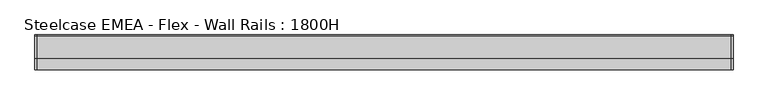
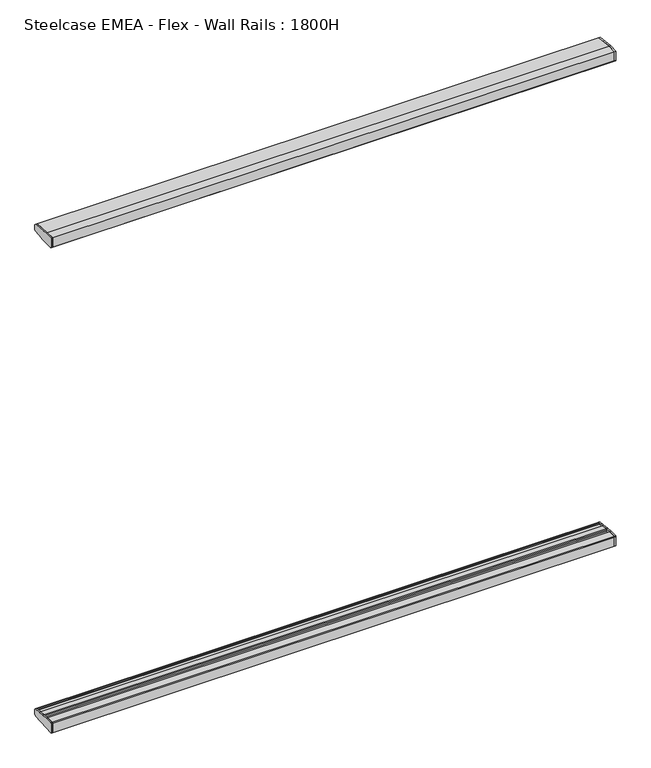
"""IFC4 building model written with IfcOpenShell, lengths in millimetres: furniture geometry, Steelcase EMEA - Flex - Wall Rails : 1800H."""

from ifc_helpers import new_model, si_unit, frame, origin, place, context, project, spatial, polyline, outline, extrude, source, transform, mapped, element, save


def steelcase_emea_flex_wall_rails_1800h_d6aaea59(model_context):
    return source(origin(), model_context, "Body", "SweptSolid", [
        extrude(outline(polyline([(29.748384, 494.399958), (50.3978144, 493.0470375), (73.1435844, 490.9657693), (98.0172056, 488.9021347), (99.9999601, 486.7480995), (99.9999601, 467.5239814), (95.5653908, 462.6914284), (31.7483991, 457.2), (0.0, 457.2), (0.0, 492.39833), (2.0015978, 494.399958), (29.748384, 494.399958)])), frame((1999.6487351, 0.0, 0.0), z_axis=(1.0, 0.0, 0.0), x_axis=(0.0, 1.0, 0.0)), (0.0, 0.0, 1.0), 5.0),
        extrude(outline(polyline([(29.748384, 2275.5875964), (2.0015978, 2275.5875964), (0.0, 2277.5892245), (0.0, 2312.7875545), (31.7483991, 2312.7875545), (95.5653908, 2307.2961261), (99.9999601, 2302.4635731), (99.9999601, 2283.239455), (98.0172056, 2281.0854198), (73.1435844, 2279.0217851), (50.3978144, 2276.9405169), (29.748384, 2275.5875964)])), frame((1999.6487351, 0.0, 0.0), z_axis=(1.0, 0.0, 0.0), x_axis=(0.0, 1.0, 0.0)), (0.0, 0.0, 1.0), 5.0),
        extrude(outline(polyline([(29.748384, 494.399958), (50.3978144, 493.0470375), (73.1435844, 490.9657693), (98.0172056, 488.9021347), (99.9999601, 486.7480995), (99.9999601, 467.5239814), (95.5653908, 462.6914284), (31.7483991, 457.2), (0.0, 457.2), (0.0, 492.39833), (2.0015978, 494.399958), (29.748384, 494.399958)])), frame((0.0, 0.0, 0.0), z_axis=(1.0, 0.0, 0.0), x_axis=(0.0, 1.0, 0.0)), (0.0, 0.0, 1.0), 5.0),
        extrude(outline(polyline([(29.748384, 2275.5875964), (2.0015978, 2275.5875964), (0.0, 2277.5892245), (0.0, 2312.7875545), (31.7483991, 2312.7875545), (95.5653908, 2307.2961261), (99.9999601, 2302.4635731), (99.9999601, 2283.239455), (98.0172056, 2281.0854198), (73.1435844, 2279.0217851), (50.3978144, 2276.9405169), (29.748384, 2275.5875964)])), frame((0.0, 0.0, 0.0), z_axis=(1.0, 0.0, 0.0), x_axis=(0.0, 1.0, 0.0)), (0.0, 0.0, 1.0), 5.0),
        extrude(outline(polyline([(0.0, 492.39833), (2.0015978, 494.399958), (29.748384, 494.399958), (31.7499758, 492.398336), (31.7499758, 484.9937772), (48.4030258, 484.9937772), (48.4030258, 491.016882), (50.3978144, 493.0470375), (73.1435844, 490.9657693), (75.1383233, 488.7986526), (75.1383227, 484.9937772), (91.9999735, 484.9937772), (91.9999743, 487.4118187), (93.9826847, 489.2368579), (98.0172056, 488.9021347), (99.9999598, 486.7480995), (99.9999606, 467.5239822), (95.5653908, 462.6914284), (31.7483991, 457.2), (0.0, 457.2), (0.0, 492.39833)])), frame((5.0, 0.0, 0.0), z_axis=(1.0, 0.0, 0.0), x_axis=(0.0, 1.0, 0.0)), (0.0, 0.0, 1.0), 1994.6487351),
        extrude(outline(polyline([(0.0, 2277.5892245), (0.0, 2312.7875545), (31.7483991, 2312.7875545), (95.5653908, 2307.2961261), (99.9999601, 2302.4635728), (99.9999601, 2283.2394553), (98.0172056, 2281.0854198), (93.9826847, 2280.7506966), (91.9999743, 2282.5757358), (91.9999735, 2284.9937772), (75.1383227, 2284.9937772), (75.1383233, 2281.1889019), (73.1435844, 2279.0217851), (50.3978144, 2276.9405169), (48.4030258, 2278.9706725), (48.4030258, 2284.9937772), (31.7499758, 2284.9937772), (31.7499758, 2277.5892185), (29.748384, 2275.5875964), (2.0015978, 2275.5875964), (0.0, 2277.5892245)])), frame((5.0, 0.0, 0.0), z_axis=(1.0, 0.0, 0.0), x_axis=(0.0, 1.0, 0.0)), (0.0, 0.0, 1.0), 1994.6487351),
    ])


if __name__ == "__main__":
    model = new_model("IFC4")
    model_context = context("Model", 3, world=origin())
    ifc_project = project(units=[si_unit("LENGTHUNIT", "METRE", prefix="MILLI")], contexts=[model_context])
    site = spatial("IfcSite", under=ifc_project)
    building = spatial("IfcBuilding", under=site)
    placement = place(None, origin())
    steelcase_emea_flex_wall_rails_1800h_shape = steelcase_emea_flex_wall_rails_1800h_d6aaea59(model_context)
    element("IfcFurniture", 1, ObjectType="Steelcase EMEA - Flex - Wall Rails : 1800H", at=placement, inside=building, context=model_context, shape_type="MappedRepresentation", body=[
        mapped(steelcase_emea_flex_wall_rails_1800h_shape, transform((0.0, 0.0, 0.0), x_axis=(1.0, 0.0, 0.0), y_axis=(0.0, 1.0, 0.0), z_axis=(0.0, 0.0, 1.0))),
    ])
    save(model, "model.ifc")
